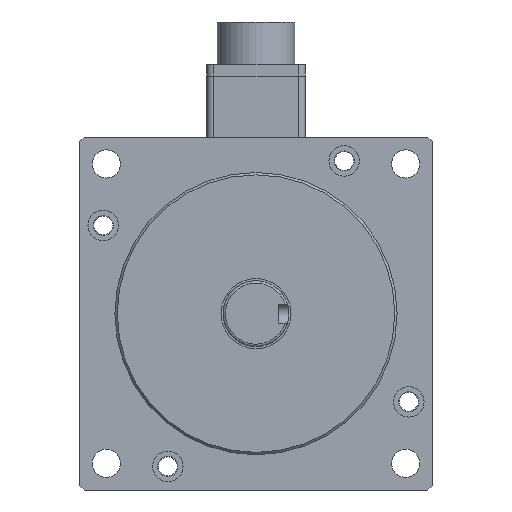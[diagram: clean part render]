
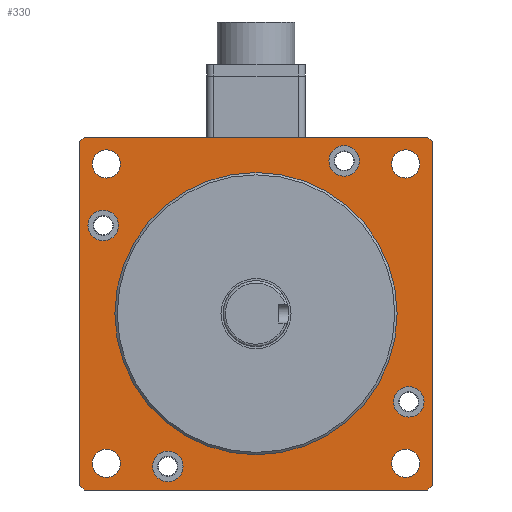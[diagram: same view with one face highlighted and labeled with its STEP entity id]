
A CAD part, front view. The second image highlights one B-rep face of the part: STEP entity #330.
In plain terms, the highlighted planar face has unit normal (0, -1, 0).
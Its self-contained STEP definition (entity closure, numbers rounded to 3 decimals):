
#330=ADVANCED_FACE('',(#528,#529,#530,#531,#532,#533,#534,#535,#536,#537),
#445,.T.);
#445=PLANE('',#2863);
#528=FACE_BOUND('',#694,.T.);
#529=FACE_BOUND('',#695,.T.);
#530=FACE_BOUND('',#696,.T.);
#531=FACE_BOUND('',#697,.T.);
#532=FACE_BOUND('',#698,.T.);
#533=FACE_BOUND('',#699,.T.);
#534=FACE_BOUND('',#700,.T.);
#535=FACE_BOUND('',#701,.T.);
#536=FACE_BOUND('',#702,.T.);
#537=FACE_BOUND('',#703,.T.);
#694=EDGE_LOOP('',(#1180));
#695=EDGE_LOOP('',(#1181));
#696=EDGE_LOOP('',(#1182));
#697=EDGE_LOOP('',(#1183));
#698=EDGE_LOOP('',(#1184));
#699=EDGE_LOOP('',(#1185));
#700=EDGE_LOOP('',(#1186));
#701=EDGE_LOOP('',(#1187));
#702=EDGE_LOOP('',(#1188));
#703=EDGE_LOOP('',(#1189,#1190,#1191,#1192,#1193,#1194,#1195,#1196));
#1180=ORIENTED_EDGE('',*,*,#1970,.T.);
#1181=ORIENTED_EDGE('',*,*,#1971,.T.);
#1182=ORIENTED_EDGE('',*,*,#1972,.T.);
#1183=ORIENTED_EDGE('',*,*,#1973,.T.);
#1184=ORIENTED_EDGE('',*,*,#1966,.T.);
#1185=ORIENTED_EDGE('',*,*,#1965,.T.);
#1186=ORIENTED_EDGE('',*,*,#1964,.T.);
#1187=ORIENTED_EDGE('',*,*,#1963,.T.);
#1188=ORIENTED_EDGE('',*,*,#1969,.T.);
#1189=ORIENTED_EDGE('',*,*,#1907,.F.);
#1190=ORIENTED_EDGE('',*,*,#1962,.T.);
#1191=ORIENTED_EDGE('',*,*,#1914,.F.);
#1192=ORIENTED_EDGE('',*,*,#1959,.T.);
#1193=ORIENTED_EDGE('',*,*,#1897,.F.);
#1194=ORIENTED_EDGE('',*,*,#1960,.T.);
#1195=ORIENTED_EDGE('',*,*,#1933,.F.);
#1196=ORIENTED_EDGE('',*,*,#1961,.T.);
#1616=VERTEX_POINT('',#4054);
#1617=VERTEX_POINT('',#4056);
#1624=VERTEX_POINT('',#4074);
#1625=VERTEX_POINT('',#4076);
#1630=VERTEX_POINT('',#4088);
#1631=VERTEX_POINT('',#4090);
#1644=VERTEX_POINT('',#4126);
#1645=VERTEX_POINT('',#4128);
#1653=VERTEX_POINT('',#4187);
#1654=VERTEX_POINT('',#4190);
#1655=VERTEX_POINT('',#4193);
#1656=VERTEX_POINT('',#4196);
#1659=VERTEX_POINT('',#4204);
#1660=VERTEX_POINT('',#4207);
#1661=VERTEX_POINT('',#4209);
#1662=VERTEX_POINT('',#4211);
#1663=VERTEX_POINT('',#4213);
#1897=EDGE_CURVE('',#1616,#1617,#2365,.T.);
#1907=EDGE_CURVE('',#1624,#1625,#2375,.T.);
#1914=EDGE_CURVE('',#1630,#1631,#2382,.T.);
#1933=EDGE_CURVE('',#1644,#1645,#2401,.T.);
#1959=EDGE_CURVE('',#1630,#1617,#2411,.T.);
#1960=EDGE_CURVE('',#1616,#1645,#2412,.T.);
#1961=EDGE_CURVE('',#1644,#1625,#2413,.T.);
#1962=EDGE_CURVE('',#1624,#1631,#2414,.T.);
#1963=EDGE_CURVE('',#1653,#1653,#2198,.T.);
#1964=EDGE_CURVE('',#1654,#1654,#2199,.T.);
#1965=EDGE_CURVE('',#1655,#1655,#2200,.T.);
#1966=EDGE_CURVE('',#1656,#1656,#2201,.T.);
#1969=EDGE_CURVE('',#1659,#1659,#2204,.T.);
#1970=EDGE_CURVE('',#1660,#1660,#2205,.T.);
#1971=EDGE_CURVE('',#1661,#1661,#2206,.T.);
#1972=EDGE_CURVE('',#1662,#1662,#2207,.T.);
#1973=EDGE_CURVE('',#1663,#1663,#2208,.T.);
#2198=CIRCLE('',#2846,6.);
#2199=CIRCLE('',#2848,6.);
#2200=CIRCLE('',#2850,6.);
#2201=CIRCLE('',#2852,6.);
#2204=CIRCLE('',#2857,60.);
#2205=CIRCLE('',#2859,6.5);
#2206=CIRCLE('',#2860,6.5);
#2207=CIRCLE('',#2861,6.5);
#2208=CIRCLE('',#2862,6.5);
#2365=LINE('',#4055,#2575);
#2375=LINE('',#4075,#2585);
#2382=LINE('',#4089,#2592);
#2401=LINE('',#4127,#2611);
#2411=LINE('',#4178,#2621);
#2412=LINE('',#4180,#2622);
#2413=LINE('',#4182,#2623);
#2414=LINE('',#4184,#2624);
#2575=VECTOR('',#3252,1.);
#2585=VECTOR('',#3266,1.);
#2592=VECTOR('',#3275,1.);
#2611=VECTOR('',#3304,1.);
#2621=VECTOR('',#3380,1.);
#2622=VECTOR('',#3383,1.);
#2623=VECTOR('',#3386,1.);
#2624=VECTOR('',#3389,1.);
#2846=AXIS2_PLACEMENT_3D('',#4186,#3392,#3393);
#2848=AXIS2_PLACEMENT_3D('',#4189,#3396,#3397);
#2850=AXIS2_PLACEMENT_3D('',#4192,#3400,#3401);
#2852=AXIS2_PLACEMENT_3D('',#4195,#3404,#3405);
#2857=AXIS2_PLACEMENT_3D('',#4203,#3414,#3415);
#2859=AXIS2_PLACEMENT_3D('',#4206,#3418,#3419);
#2860=AXIS2_PLACEMENT_3D('',#4208,#3420,#3421);
#2861=AXIS2_PLACEMENT_3D('',#4210,#3422,#3423);
#2862=AXIS2_PLACEMENT_3D('',#4212,#3424,#3425);
#2863=AXIS2_PLACEMENT_3D('',#4214,#3426,#3427);
#3252=DIRECTION('',(0.,0.,1.));
#3266=DIRECTION('',(0.,0.,-1.));
#3275=DIRECTION('',(1.,0.,0.));
#3304=DIRECTION('',(-1.,0.,0.));
#3380=DIRECTION('',(-0.707,0.,-0.707));
#3383=DIRECTION('',(0.707,0.,-0.707));
#3386=DIRECTION('',(0.707,0.,0.707));
#3389=DIRECTION('',(-0.707,0.,0.707));
#3392=DIRECTION('',(0.,1.,0.));
#3393=DIRECTION('',(-1.,0.,0.));
#3396=DIRECTION('',(0.,1.,0.));
#3397=DIRECTION('',(0.,0.,1.));
#3400=DIRECTION('',(0.,1.,0.));
#3401=DIRECTION('',(1.,0.,0.));
#3404=DIRECTION('',(0.,1.,0.));
#3405=DIRECTION('',(0.,0.,-1.));
#3414=DIRECTION('',(0.,1.,0.));
#3415=DIRECTION('',(1.,0.,0.));
#3418=DIRECTION('',(0.,1.,0.));
#3419=DIRECTION('',(-1.,0.,0.));
#3420=DIRECTION('',(0.,1.,0.));
#3421=DIRECTION('',(0.,0.,1.));
#3422=DIRECTION('',(0.,1.,0.));
#3423=DIRECTION('',(1.,0.,0.));
#3424=DIRECTION('',(0.,1.,0.));
#3425=DIRECTION('',(0.,0.,-1.));
#3426=DIRECTION('',(0.,-1.,0.));
#3427=DIRECTION('',(1.,0.,0.));
#4054=CARTESIAN_POINT('',(-74.926,-127.5,-335.));
#4055=CARTESIAN_POINT('',(-74.926,-127.5,-262.));
#4056=CARTESIAN_POINT('',(-74.926,-127.5,-189.));
#4074=CARTESIAN_POINT('',(75.074,-127.5,-189.));
#4075=CARTESIAN_POINT('',(75.074,-127.5,-262.));
#4076=CARTESIAN_POINT('',(75.074,-127.5,-335.));
#4088=CARTESIAN_POINT('',(-72.926,-127.5,-187.));
#4089=CARTESIAN_POINT('',(0.074,-127.5,-187.));
#4090=CARTESIAN_POINT('',(73.074,-127.5,-187.));
#4126=CARTESIAN_POINT('',(73.074,-127.5,-337.));
#4127=CARTESIAN_POINT('',(0.074,-127.5,-337.));
#4128=CARTESIAN_POINT('',(-72.926,-127.5,-337.));
#4178=CARTESIAN_POINT('',(-73.926,-127.5,-188.));
#4180=CARTESIAN_POINT('',(-73.926,-127.5,-336.));
#4182=CARTESIAN_POINT('',(74.074,-127.5,-336.));
#4184=CARTESIAN_POINT('',(74.074,-127.5,-188.));
#4186=CARTESIAN_POINT('',(63.714,-127.5,-198.36));
#4187=CARTESIAN_POINT('',(57.714,-127.5,-198.36));
#4189=CARTESIAN_POINT('',(63.714,-127.5,-325.64));
#4190=CARTESIAN_POINT('',(63.714,-127.5,-319.64));
#4192=CARTESIAN_POINT('',(-63.565,-127.5,-325.64));
#4193=CARTESIAN_POINT('',(-57.565,-127.5,-325.64));
#4195=CARTESIAN_POINT('',(-63.565,-127.5,-198.36));
#4196=CARTESIAN_POINT('',(-63.565,-127.5,-204.36));
#4203=CARTESIAN_POINT('',(0.074,-127.5,-262.));
#4204=CARTESIAN_POINT('',(60.074,-127.5,-262.));
#4206=CARTESIAN_POINT('',(-37.426,-127.5,-326.952));
#4207=CARTESIAN_POINT('',(-43.926,-127.5,-326.952));
#4208=CARTESIAN_POINT('',(-64.877,-127.5,-224.5));
#4209=CARTESIAN_POINT('',(-64.877,-127.5,-218.));
#4210=CARTESIAN_POINT('',(37.574,-127.5,-197.048));
#4211=CARTESIAN_POINT('',(44.074,-127.5,-197.048));
#4212=CARTESIAN_POINT('',(65.026,-127.5,-299.5));
#4213=CARTESIAN_POINT('',(65.026,-127.5,-306.));
#4214=CARTESIAN_POINT('',(0.074,-127.5,-262.));
